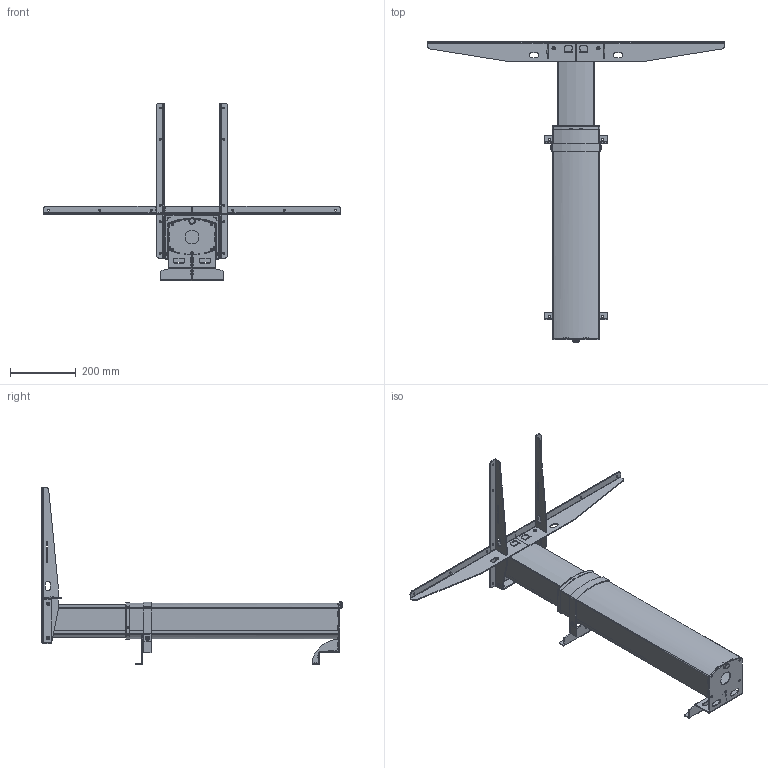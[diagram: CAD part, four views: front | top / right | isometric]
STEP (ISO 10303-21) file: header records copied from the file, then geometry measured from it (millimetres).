
FILE_DESCRIPTION (( 'STEP AP214' ), '1' );
FILE_NAME ('1w.STEP', '2019-10-28T07:59:50', ( '' ), ( '' ), 'SwSTEP 2.0', 'SolidWorks 2018', '' );
FILE_SCHEMA (( 'AUTOMOTIVE_DESIGN' ));
Length unit declared in the file: millimetre
Products named in the file (33): 114960; 320530; 303470; 302180; 311670; 114950; 313900; 311680; Weld_18; Weld_13; 107860_silver; 313910; 1w; 150870; 111360_shell view; 306980_black; Weld_16; 107880_Shell view; 107870_silver; 312140; Weld_15; 311700_Shell view; 313930; 311630_shell view1; 311890; 111500_silver; 320500; 320490; 313920; 304650; 311900; 311690_Shell view; 109860
Assembly tree (51 placements, depth 6):
  1w
    150870
      111500_silver
        107870_silver
          107860_silver
            311670
            311680
        111360_shell view
          107880_Shell view
            311690_Shell view
            311700_Shell view
            311630_shell view1
          312140
        306980_black  x4
      109860
        313920
        313930
        Weld_13  x4
        Weld_15  x4
      313900
      313910
      114950
        320490
        311900
        320530
        Weld_16  x4
        Weld_18
      114960
        320500
        311890
        320530
      302180  x2
      303470
      304650  x6
Bounding box: 900 x 910 x 539.12 mm (x, y, z)
Volume: 1796398.1 mm3; surface area: 1595801.4 mm2
Topology: 42 solids, 42 shells, 1216 faces, 2989 edges, 1888 vertices
Faces by surface type: plane 712, cylinder 365, bspline 70, torus 52, cone 9, sphere 8
Full cylindrical faces by diameter (mm): 4 x4, 4.5 x6, 5 x12, 6 x36, 6.5 x11, 7.5 x4, 8 x2, 8.5 x2, 10 x4, 13 x2, 42 x1
Entity records: 34821 total; most frequent: CARTESIAN_POINT 10318, DIRECTION 4824, ORIENTED_EDGE 4660, EDGE_CURVE 2330, AXIS2_PLACEMENT_3D 1645, VECTOR 1534, LINE 1534, VERTEX_POINT 1512
